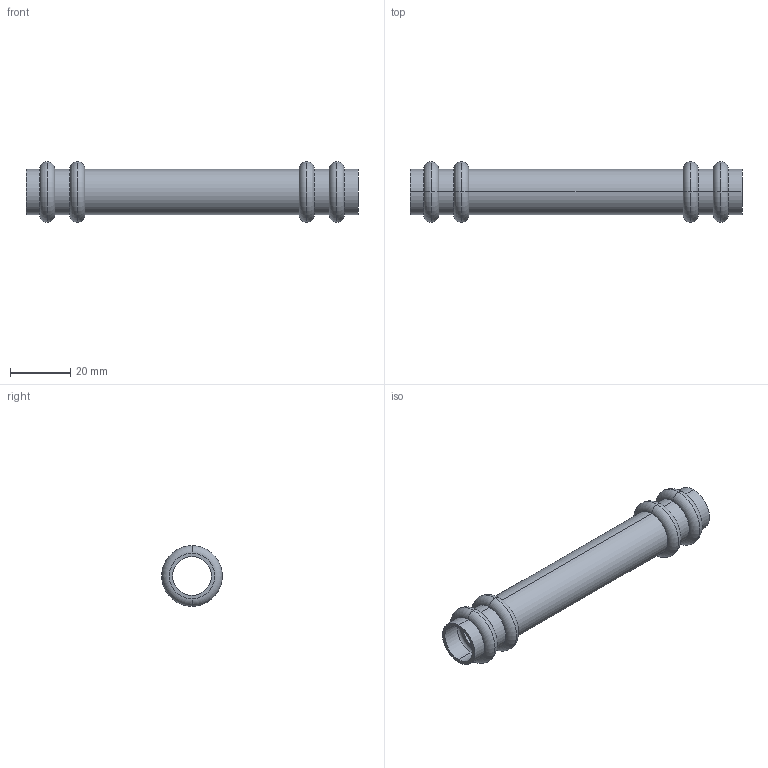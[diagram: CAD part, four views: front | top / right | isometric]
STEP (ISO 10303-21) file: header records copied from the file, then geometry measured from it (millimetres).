
FILE_DESCRIPTION(('starvars output'),'1');
FILE_NAME('cv20240422104904000011565.stp','10:49:05 2024/04/22',('Thomas Industrial Network Germany GmbH'),(' '),'Spatial InterOp 3D',' ',' ');
FILE_SCHEMA(('AUTOMOTIVE_DESIGN { 1 0 10303 214 3 1 1 }'));
Length unit declared in the file: millimetre
Products named in the file (1): 1
Bounding box: 109.98 x 20.1 x 20.1 mm (x, y, z)
Volume: 6522.9 mm3; surface area: 11412.6 mm2
Topology: 1 solids, 1 shells, 62 faces, 124 edges, 72 vertices
Faces by surface type: torus 32, cylinder 20, plane 10
Entity records: 2160 total; most frequent: DIRECTION 354, CARTESIAN_POINT 259, ORIENTED_EDGE 248, AXIS2_PLACEMENT_3D 167, EDGE_CURVE 124, CIRCLE 104, EDGE_LOOP 72, VERTEX_POINT 72
